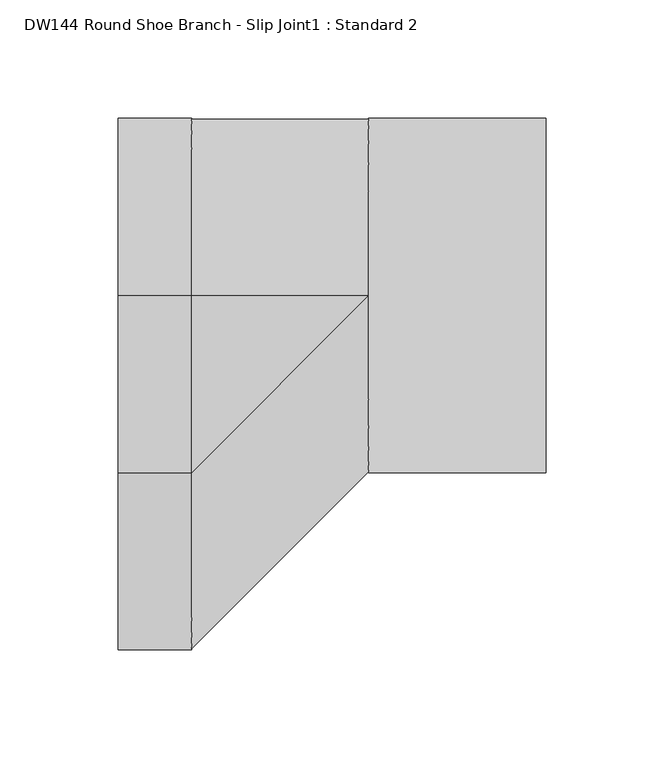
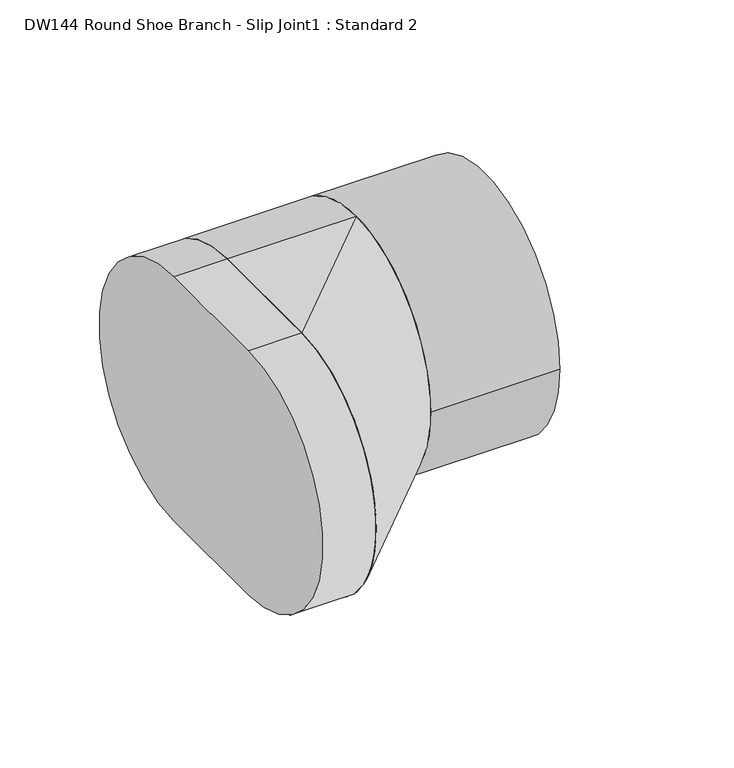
"""IFC4 building model written with IfcOpenShell, lengths in millimetres: duct fitting geometry, DW144 Round Shoe Branch - Slip Joint1 : Standard 2."""

from ifc_helpers import new_model, si_unit, point, frame, frame_2d, origin, origin_2d, place, context, project, spatial, polyline, circle_curve, trimmed, segment, composite_curve, outline, extrude, source, transform, mapped, element, save
from ifc_brep_helpers import plane_surface, cylinder_surface, extruded_surface, advanced_brep


def dw144_round_shoe_branch_slip_joint1_standard_2_72151daf(model_context):
    return source(origin(), model_context, "Body", "SolidModel", [
        extrude(outline(composite_curve([segment(trimmed(circle_curve(origin_2d(), 75.0), [point((-75.0, 0.0))], [point((75.0, 0.0))], False, "CARTESIAN"), True, "CONTINUOUS"), segment(trimmed(circle_curve(origin_2d(), 75.0), [point((75.0, 0.0))], [point((-75.0, 0.0))], False, "CARTESIAN"), True, "CONTINUOUS")], self_intersect=False)), frame((75.0, 0.0, 0.0), z_axis=(1.0, 0.0, 0.0), x_axis=(0.0, 1.0, 0.0)), (0.0, 0.0, 1.0), 75.0),
        advanced_brep(
        [(75.0, 0.0, -75.0), (75.0, 0.0, 75.0), (0.0, 0.0, -75.0), (0.0, -75.0, -75.0), (0.0, -75.0, 75.0), (0.0, 0.0, 75.0)],
        [
            (0, 1, circle_curve(frame((75.0, 0.0, 0.0), z_axis=(1.0, 0.0, 0.0), x_axis=(0.0, 1.0, 0.0)), 75.0)),
            (1, 0, circle_curve(frame((75.0, 0.0, 0.0), z_axis=(1.0, 0.0, 0.0), x_axis=(0.0, 1.0, 0.0)), 75.0)),
            (2, 3),
            (3, 4, circle_curve(frame((0.0, -75.0, 0.0), z_axis=(-1.0, 0.0, 0.0), x_axis=(0.0, 1.0, 0.0)), 75.0)),
            (4, 5),
            (5, 2, circle_curve(frame((0.0, 0.0, 0.0), z_axis=(-1.0, 0.0, 0.0), x_axis=(0.0, 1.0, 0.0)), 75.0)),
            (5, 1),
            (0, 2),
            (4, 1),
            (3, 0),
        ],
        [
            plane_surface(frame((75.0, 0.0, 0.0), z_axis=(1.0, 0.0, 0.0), x_axis=(0.0, 1.0, 0.0))),
            plane_surface(frame((0.0, -37.5, 0.0), z_axis=(-1.0, 0.0, 0.0), x_axis=(0.0, 1.0, 0.0))),
            cylinder_surface(frame((0.0, 0.0, 0.0), z_axis=(1.0, 0.0, 0.0), x_axis=(0.0, 1.0, 0.0)), 75.0),
            plane_surface(frame((0.0, -37.5, 75.0), z_axis=(0.0, 0.0, 1.0), x_axis=(0.0, -1.0, 0.0))),
            extruded_surface(trimmed(circle_curve(frame((0.0, -75.0, 0.0), z_axis=(1.0, 0.0, 0.0), x_axis=(0.0, 1.0, 0.0)), 75.0), [point((0.0, -75.0, 75.0))], [point((0.0, -75.0, -75.0))], True, "CARTESIAN"), (75.0, 75.0, 0.0), 106.06601717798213),
            plane_surface(frame((0.0, -37.5, -75.0), z_axis=(0.0, 0.0, -1.0), x_axis=(0.0, 1.0, 0.0))),
        ],
        [
            (0, [[1, 2]]),
            (1, [[3, 4, 5, 6]]),
            (2, [[-6, 7, -1, 8]]),
            (3, [[-5, 9, -7]]),
            (4, [[-4, 10, -2, -9]]),
            (5, [[-3, -8, -10]]),
        ],
    ),
        extrude(outline(composite_curve([segment(polyline([(0.0, -75.0), (-75.0, -75.0)]), True, "CONTINUOUS"), segment(trimmed(circle_curve(frame_2d((-75.0, 0.0)), 75.0), [point((-75.0, -75.0))], [point((-75.0, 75.0))], False, "CARTESIAN"), True, "CONTINUOUS"), segment(polyline([(-75.0, 75.0), (0.0, 75.0)]), True, "CONTINUOUS"), segment(trimmed(circle_curve(origin_2d(), 75.0), [point((0.0, 75.0))], [point((0.0, -75.0))], False, "CARTESIAN"), True, "CONTINUOUS")], self_intersect=False)), frame((-31.096, 0.0, 0.0), z_axis=(1.0, 0.0, 0.0), x_axis=(0.0, 1.0, 0.0)), (0.0, 0.0, 1.0), 31.096),
    ])


if __name__ == "__main__":
    model = new_model("IFC4")
    model_context = context("Model", 3, world=origin())
    ifc_project = project(units=[si_unit("LENGTHUNIT", "METRE", prefix="MILLI")], contexts=[model_context])
    site = spatial("IfcSite", under=ifc_project)
    building = spatial("IfcBuilding", under=site)
    placement = place(None, origin())
    dw144_round_shoe_branch_slip_joint1_standard_2_shape = dw144_round_shoe_branch_slip_joint1_standard_2_72151daf(model_context)
    element("IfcDuctFitting", 1, ObjectType="DW144 Round Shoe Branch - Slip Joint1 : Standard 2", at=placement, inside=building, context=model_context, shape_type="MappedRepresentation", body=[
        mapped(dw144_round_shoe_branch_slip_joint1_standard_2_shape, transform((0.0, 0.0, 0.0), x_axis=(1.0, 0.0, 0.0), y_axis=(0.0, 1.0, 0.0), z_axis=(0.0, 0.0, 1.0))),
    ])
    save(model, "model.ifc")
